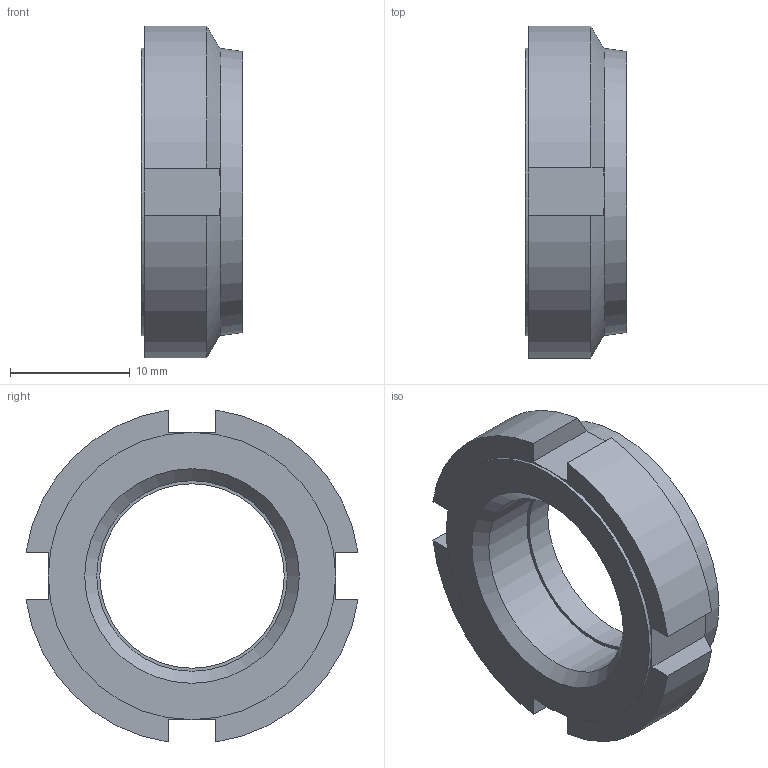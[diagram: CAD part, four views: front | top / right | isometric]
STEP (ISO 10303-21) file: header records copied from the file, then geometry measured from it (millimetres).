
FILE_DESCRIPTION( ( 'STEP AP203' ), '1' );
FILE_NAME( 'C:/Temp/Ganter_Step_05_03_2020/data/3_2/gn1804_1/Slotted locknut self-locking GN 1804.1-M17x1.stp', '2020-03-13T05:25:14', ( 'License CC BY-ND 4.0' ), ( 'CADENAS' ), ' ', 'PARTsolutions', ' ' );
FILE_SCHEMA( ( 'CONFIG_CONTROL_DESIGN' ) );
Length unit declared in the file: millimetre
Products named in the file (1): _Slotted locknut self-locking GN 1804.1-M17x1
Bounding box: 8.5 x 27.71 x 27.71 mm (x, y, z)
Volume: 2853.9 mm3; surface area: 1917.5 mm2
Topology: 1 solids, 1 shells, 34 faces, 79 edges, 49 vertices
Faces by surface type: plane 20, cylinder 8, cone 6
Full cylindrical faces by diameter (mm): 15.4 x1, 15.917 x1, 18 x1, 24 x1
Entity records: 994 total; most frequent: CARTESIAN_POINT 205, DIRECTION 152, ORIENTED_EDGE 146, EDGE_CURVE 73, AXIS2_PLACEMENT_3D 60, VERTEX_POINT 49, EDGE_LOOP 44, FACE_OUTER_BOUND 38
